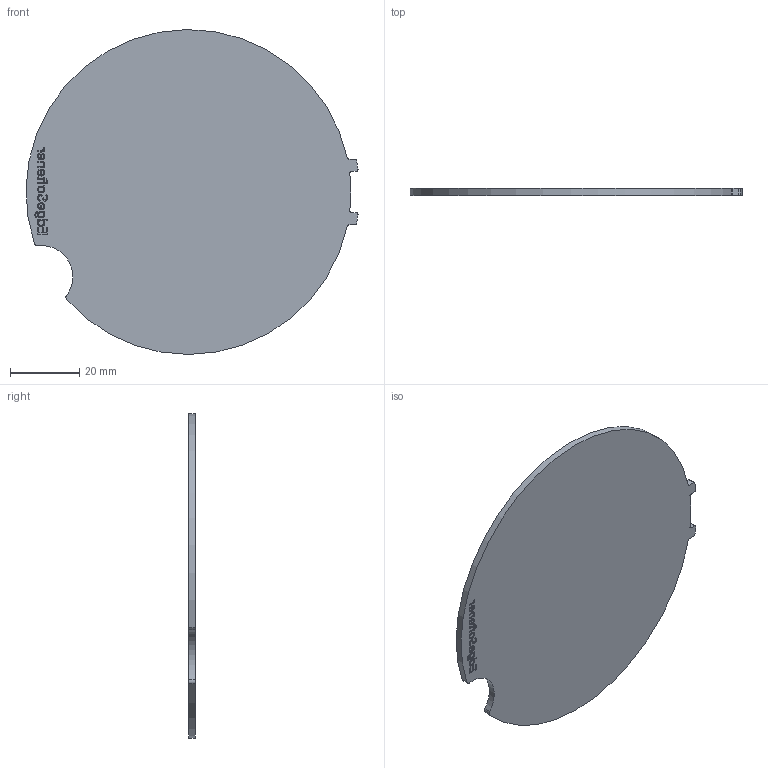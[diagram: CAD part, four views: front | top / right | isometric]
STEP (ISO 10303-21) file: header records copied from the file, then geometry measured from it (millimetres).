
FILE_DESCRIPTION (( 'STEP AP214' ), '1' );
FILE_NAME ('EdgeSoftener.STEP', '2025-09-25T06:34:56', ( '' ), ( '' ), 'SwSTEP 2.0', 'SolidWorks 2016', '' );
FILE_SCHEMA (( 'AUTOMOTIVE_DESIGN' ));
Length unit declared in the file: millimetre
Products named in the file (1): EdgeSoftener
Bounding box: 96.06 x 2 x 94 mm (x, y, z)
Volume: 13738.7 mm3; surface area: 14372.3 mm2
Topology: 1 solids, 1 shells, 190 faces, 510 edges, 340 vertices
Faces by surface type: plane 107, bspline 66, cylinder 17
Entity records: 9314 total; most frequent: CARTESIAN_POINT 4935, ORIENTED_EDGE 1020, DIRECTION 662, EDGE_CURVE 510, LINE 344, VECTOR 344, VERTEX_POINT 340, EDGE_LOOP 208
